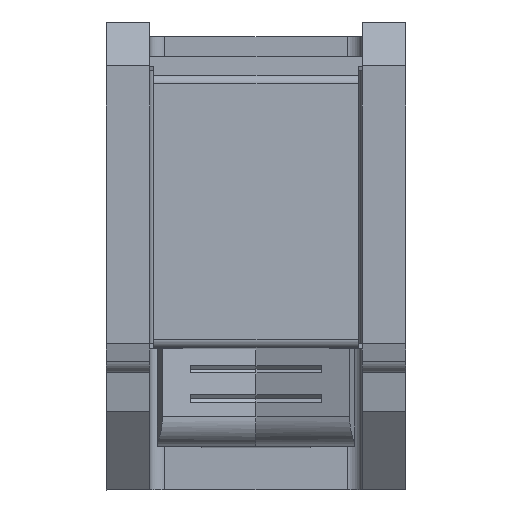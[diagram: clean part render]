
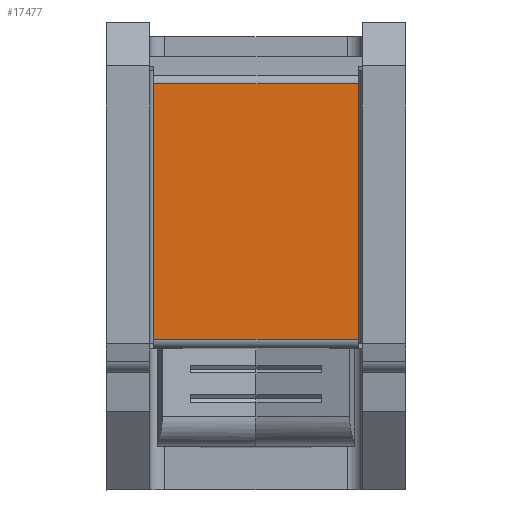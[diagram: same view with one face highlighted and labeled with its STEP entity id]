
A CAD part, front view. The second image highlights one B-rep face of the part: STEP entity #17477.
In plain terms, the highlighted planar face has unit normal (0, -1, 0.008).
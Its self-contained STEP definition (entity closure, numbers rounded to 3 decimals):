
#503 = LINE ( 'NONE', #5822, #13971 ) ;
#839 = ORIENTED_EDGE ( 'NONE', *, *, #12348, .F. ) ;
#868 = VERTEX_POINT ( 'NONE', #12291 ) ;
#3657 = VECTOR ( 'NONE', #7273, 1000. ) ;
#5822 = CARTESIAN_POINT ( 'NONE',  ( -6.352, 5.777, 17.215 ) ) ;
#6063 = FACE_OUTER_BOUND ( 'NONE', #9850, .T. ) ;
#6486 = CARTESIAN_POINT ( 'NONE',  ( 10.648, 5.774, 16.795 ) ) ;
#6559 = DIRECTION ( 'NONE',  ( 1., 0., 0. ) ) ;
#6592 = VECTOR ( 'NONE', #11095, 1000. ) ;
#7071 = VERTEX_POINT ( 'NONE', #17660 ) ;
#7273 = DIRECTION ( 'NONE',  ( 0., -0.008, -1. ) ) ;
#7414 = DIRECTION ( 'NONE',  ( 0., 0.008, 1. ) ) ;
#8004 = LINE ( 'NONE', #16979, #3657 ) ;
#8037 = VERTEX_POINT ( 'NONE', #10666 ) ;
#9850 = EDGE_LOOP ( 'NONE', ( #11046, #17448, #839, #12202 ) ) ;
#9997 = DIRECTION ( 'NONE',  ( 0., 1., -0.008 ) ) ;
#10527 = EDGE_CURVE ( 'NONE', #868, #8037, #8004, .T. ) ;
#10666 = CARTESIAN_POINT ( 'NONE',  ( 7.648, 5.64, -0.685 ) ) ;
#11046 = ORIENTED_EDGE ( 'NONE', *, *, #10527, .F. ) ;
#11095 = DIRECTION ( 'NONE',  ( 1., 0., 0. ) ) ;
#11371 = CARTESIAN_POINT ( 'NONE',  ( 10.648, 5.64, -0.685 ) ) ;
#11810 = AXIS2_PLACEMENT_3D ( 'NONE', #14905, #9997, #6559 ) ;
#12202 = ORIENTED_EDGE ( 'NONE', *, *, #15978, .F. ) ;
#12291 = CARTESIAN_POINT ( 'NONE',  ( 7.648, 5.774, 16.795 ) ) ;
#12348 = EDGE_CURVE ( 'NONE', #19230, #7071, #503, .T. ) ;
#12915 = DIRECTION ( 'NONE',  ( -1., 0., 0. ) ) ;
#13971 = VECTOR ( 'NONE', #7414, 1000. ) ;
#14905 = CARTESIAN_POINT ( 'NONE',  ( 10.648, 5.777, 17.215 ) ) ;
#15467 = LINE ( 'NONE', #6486, #6592 ) ;
#15763 = LINE ( 'NONE', #11371, #19553 ) ;
#15978 = EDGE_CURVE ( 'NONE', #8037, #19230, #15763, .T. ) ;
#16538 = PLANE ( 'NONE',  #11810 ) ;
#16979 = CARTESIAN_POINT ( 'NONE',  ( 7.648, 5.777, 17.215 ) ) ;
#17448 = ORIENTED_EDGE ( 'NONE', *, *, #19519, .F. ) ;
#17477 = ADVANCED_FACE ( 'NONE', ( #6063 ), #16538, .F. ) ;
#17660 = CARTESIAN_POINT ( 'NONE',  ( -6.352, 5.774, 16.795 ) ) ;
#19230 = VERTEX_POINT ( 'NONE', #20260 ) ;
#19519 = EDGE_CURVE ( 'NONE', #7071, #868, #15467, .T. ) ;
#19553 = VECTOR ( 'NONE', #12915, 1000. ) ;
#20260 = CARTESIAN_POINT ( 'NONE',  ( -6.352, 5.64, -0.685 ) ) ;
